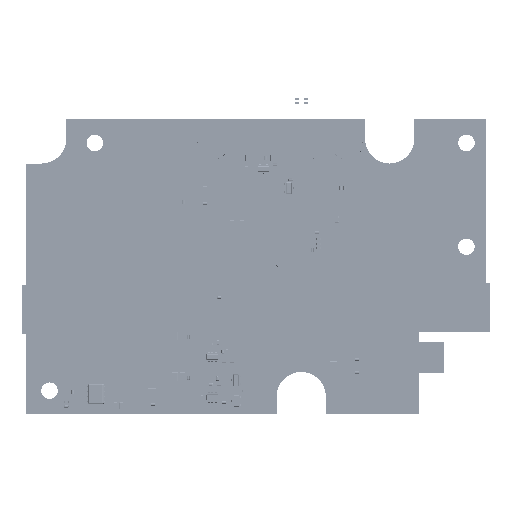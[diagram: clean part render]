
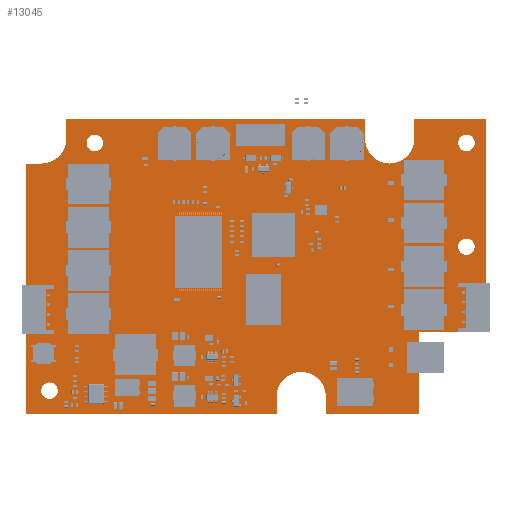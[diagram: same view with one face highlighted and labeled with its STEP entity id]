
A CAD part, top view. The second image highlights one B-rep face of the part: STEP entity #13045.
In plain terms, the highlighted planar face has unit normal (0, 0, 1).
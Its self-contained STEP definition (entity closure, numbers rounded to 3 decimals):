
#13045=ADVANCED_FACE('',(#21939,#21940,#21941,#21942,#21943),#21944,.T.);
#21939=FACE_BOUND('',#30673,.T.);
#21940=FACE_BOUND('',#30674,.T.);
#21941=FACE_BOUND('',#30675,.T.);
#21942=FACE_BOUND('',#30676,.T.);
#21943=FACE_OUTER_BOUND('',#30677,.T.);
#21944=PLANE('',#30678);
#30673=EDGE_LOOP('',(#42317));
#30674=EDGE_LOOP('',(#42318));
#30675=EDGE_LOOP('',(#42319));
#30676=EDGE_LOOP('',(#42320));
#30677=EDGE_LOOP('',(#42321,#42322,#42323,#42324,#42325,#42326,#42327,#42328,#42329,#42330,#42331,#42332,#42333,#42334,#42335,#42336,#42337));
#30678=AXIS2_PLACEMENT_3D('',#42338,#42339,#42340);
#42317=ORIENTED_EDGE('',*,*,#58422,.T.);
#42318=ORIENTED_EDGE('',*,*,#58425,.T.);
#42319=ORIENTED_EDGE('',*,*,#58428,.T.);
#42320=ORIENTED_EDGE('',*,*,#58431,.T.);
#42321=ORIENTED_EDGE('',*,*,#58434,.T.);
#42322=ORIENTED_EDGE('',*,*,#58435,.T.);
#42323=ORIENTED_EDGE('',*,*,#58436,.T.);
#42324=ORIENTED_EDGE('',*,*,#58437,.T.);
#42325=ORIENTED_EDGE('',*,*,#58438,.T.);
#42326=ORIENTED_EDGE('',*,*,#58439,.T.);
#42327=ORIENTED_EDGE('',*,*,#58440,.T.);
#42328=ORIENTED_EDGE('',*,*,#58441,.T.);
#42329=ORIENTED_EDGE('',*,*,#58442,.T.);
#42330=ORIENTED_EDGE('',*,*,#58443,.T.);
#42331=ORIENTED_EDGE('',*,*,#58444,.T.);
#42332=ORIENTED_EDGE('',*,*,#58445,.T.);
#42333=ORIENTED_EDGE('',*,*,#58446,.T.);
#42334=ORIENTED_EDGE('',*,*,#58447,.T.);
#42335=ORIENTED_EDGE('',*,*,#58448,.T.);
#42336=ORIENTED_EDGE('',*,*,#58449,.T.);
#42337=ORIENTED_EDGE('',*,*,#58450,.T.);
#42338=CARTESIAN_POINT('',(60.07,37.993,1.6));
#42339=DIRECTION('',(0.,0.,1.0));
#42340=DIRECTION('',(1.0,0.0,0.));
#58422=EDGE_CURVE('',#65978,#65978,#65979,.T.);
#58425=EDGE_CURVE('',#65983,#65983,#65984,.T.);
#58428=EDGE_CURVE('',#65988,#65988,#65989,.T.);
#58431=EDGE_CURVE('',#65993,#65993,#65994,.T.);
#58434=EDGE_CURVE('',#65998,#65999,#66000,.T.);
#58435=EDGE_CURVE('',#65999,#66001,#66002,.T.);
#58436=EDGE_CURVE('',#66001,#66003,#66004,.T.);
#58437=EDGE_CURVE('',#66003,#66005,#66006,.T.);
#58438=EDGE_CURVE('',#66005,#66007,#66008,.T.);
#58439=EDGE_CURVE('',#66007,#66009,#66010,.T.);
#58440=EDGE_CURVE('',#66009,#66011,#66012,.T.);
#58441=EDGE_CURVE('',#66011,#66013,#66014,.T.);
#58442=EDGE_CURVE('',#66013,#66015,#66016,.T.);
#58443=EDGE_CURVE('',#66015,#66017,#66018,.T.);
#58444=EDGE_CURVE('',#66017,#66019,#66020,.T.);
#58445=EDGE_CURVE('',#66019,#66021,#66022,.T.);
#58446=EDGE_CURVE('',#66021,#66023,#66024,.T.);
#58447=EDGE_CURVE('',#66023,#66025,#66026,.T.);
#58448=EDGE_CURVE('',#66025,#66027,#66028,.T.);
#58449=EDGE_CURVE('',#66027,#66029,#66030,.T.);
#58450=EDGE_CURVE('',#66029,#65998,#66031,.T.);
#65978=VERTEX_POINT('',#76387);
#65979=CIRCLE('',#76388,2.1);
#65983=VERTEX_POINT('',#76392);
#65984=CIRCLE('',#76393,2.1);
#65988=VERTEX_POINT('',#76397);
#65989=CIRCLE('',#76398,2.1);
#65993=VERTEX_POINT('',#76402);
#65994=CIRCLE('',#76403,2.1);
#65998=VERTEX_POINT('',#76407);
#65999=VERTEX_POINT('',#76408);
#66000=LINE('',#76409,#76410);
#66001=VERTEX_POINT('',#76411);
#66002=LINE('',#76412,#76413);
#66003=VERTEX_POINT('',#76414);
#66004=CIRCLE('',#76415,6.25);
#66005=VERTEX_POINT('',#76416);
#66006=LINE('',#76417,#76418);
#66007=VERTEX_POINT('',#76419);
#66008=LINE('',#76420,#76421);
#66009=VERTEX_POINT('',#76422);
#66010=LINE('',#76423,#76424);
#66011=VERTEX_POINT('',#76425);
#66012=LINE('',#76426,#76427);
#66013=VERTEX_POINT('',#76428);
#66014=LINE('',#76429,#76430);
#66015=VERTEX_POINT('',#76431);
#66016=LINE('',#76432,#76433);
#66017=VERTEX_POINT('',#76434);
#66018=LINE('',#76435,#76436);
#66019=VERTEX_POINT('',#76437);
#66020=CIRCLE('',#76438,6.25);
#66021=VERTEX_POINT('',#76439);
#66022=LINE('',#76440,#76441);
#66023=VERTEX_POINT('',#76442);
#66024=LINE('',#76443,#76444);
#66025=VERTEX_POINT('',#76445);
#66026=LINE('',#76446,#76447);
#66027=VERTEX_POINT('',#76448);
#66028=CIRCLE('',#76449,6.25);
#66029=VERTEX_POINT('',#76450);
#66030=LINE('',#76451,#76452);
#66031=LINE('',#76453,#76454);
#76387=CARTESIAN_POINT('',(109.9,69.0,1.6));
#76388=AXIS2_PLACEMENT_3D('',#88684,#88685,#88686);
#76392=CARTESIAN_POINT('',(109.9,42.6,1.6));
#76393=AXIS2_PLACEMENT_3D('',#88690,#88691,#88692);
#76397=CARTESIAN_POINT('',(15.4,69.0,1.6));
#76398=AXIS2_PLACEMENT_3D('',#88696,#88697,#88698);
#76402=CARTESIAN_POINT('',(3.9,6.0,1.6));
#76403=AXIS2_PLACEMENT_3D('',#88702,#88703,#88704);
#76407=CARTESIAN_POINT('',(-0.004,0.016,1.6));
#76408=CARTESIAN_POINT('',(63.746,0.016,1.6));
#76409=CARTESIAN_POINT('',(31.871,0.016,1.6));
#76410=VECTOR('',#88708,1.0);
#76411=CARTESIAN_POINT('',(63.746,4.516,1.6));
#76412=CARTESIAN_POINT('',(63.746,2.266,1.6));
#76413=VECTOR('',#88709,1.0);
#76414=CARTESIAN_POINT('',(76.246,4.516,1.6));
#76415=AXIS2_PLACEMENT_3D('',#88710,#88711,#88712);
#76416=CARTESIAN_POINT('',(76.246,0.016,1.6));
#76417=CARTESIAN_POINT('',(76.246,2.266,1.6));
#76418=VECTOR('',#88713,1.0);
#76419=CARTESIAN_POINT('',(99.996,0.016,1.6));
#76420=CARTESIAN_POINT('',(88.121,0.016,1.6));
#76421=VECTOR('',#88714,1.0);
#76422=CARTESIAN_POINT('',(99.996,21.016,1.6));
#76423=CARTESIAN_POINT('',(99.996,10.516,1.6));
#76424=VECTOR('',#88715,1.0);
#76425=CARTESIAN_POINT('',(116.996,21.016,1.6));
#76426=CARTESIAN_POINT('',(108.496,21.016,1.6));
#76427=VECTOR('',#88716,1.0);
#76428=CARTESIAN_POINT('',(116.996,75.016,1.6));
#76429=CARTESIAN_POINT('',(116.996,48.016,1.6));
#76430=VECTOR('',#88717,1.0);
#76431=CARTESIAN_POINT('',(98.746,75.016,1.6));
#76432=CARTESIAN_POINT('',(107.871,75.016,1.6));
#76433=VECTOR('',#88718,1.0);
#76434=CARTESIAN_POINT('',(98.746,70.016,1.6));
#76435=CARTESIAN_POINT('',(98.746,72.516,1.6));
#76436=VECTOR('',#88719,1.0);
#76437=CARTESIAN_POINT('',(86.246,70.016,1.6));
#76438=AXIS2_PLACEMENT_3D('',#88720,#88721,#88722);
#76439=CARTESIAN_POINT('',(86.246,75.016,1.6));
#76440=CARTESIAN_POINT('',(86.246,72.516,1.6));
#76441=VECTOR('',#88723,1.0);
#76442=CARTESIAN_POINT('',(10.246,75.016,1.6));
#76443=CARTESIAN_POINT('',(48.246,75.016,1.6));
#76444=VECTOR('',#88724,1.0);
#76445=CARTESIAN_POINT('',(10.246,70.016,1.6));
#76446=CARTESIAN_POINT('',(10.246,72.516,1.6));
#76447=VECTOR('',#88725,1.0);
#76448=CARTESIAN_POINT('',(3.996,63.766,1.6));
#76449=AXIS2_PLACEMENT_3D('',#88726,#88727,#88728);
#76450=CARTESIAN_POINT('',(-0.004,63.766,1.6));
#76451=CARTESIAN_POINT('',(1.996,63.766,1.6));
#76452=VECTOR('',#88729,1.0);
#76453=CARTESIAN_POINT('',(-0.004,31.891,1.6));
#76454=VECTOR('',#88730,1.0);
#88684=CARTESIAN_POINT('',(112.0,69.0,1.6));
#88685=DIRECTION('',(0.,0.,-1.0));
#88686=DIRECTION('',(-1.0,0.,0.));
#88690=CARTESIAN_POINT('',(112.0,42.6,1.6));
#88691=DIRECTION('',(0.,0.,-1.0));
#88692=DIRECTION('',(-1.0,0.,0.));
#88696=CARTESIAN_POINT('',(17.5,69.0,1.6));
#88697=DIRECTION('',(0.,0.,-1.0));
#88698=DIRECTION('',(-1.0,0.,0.));
#88702=CARTESIAN_POINT('',(6.0,6.0,1.6));
#88703=DIRECTION('',(0.,0.,-1.0));
#88704=DIRECTION('',(-1.0,0.,0.));
#88708=DIRECTION('',(1.0,0.0,0.0));
#88709=DIRECTION('',(0.0,1.0,0.0));
#88710=CARTESIAN_POINT('',(69.996,4.516,1.6));
#88711=DIRECTION('',(0.0,0.0,-1.0));
#88712=DIRECTION('',(-1.0,0.0,0.0));
#88713=DIRECTION('',(0.,-1.0,0.0));
#88714=DIRECTION('',(1.0,0.,0.0));
#88715=DIRECTION('',(0.0,1.0,0.0));
#88716=DIRECTION('',(1.0,0.0,0.0));
#88717=DIRECTION('',(0.0,1.0,0.0));
#88718=DIRECTION('',(-1.0,0.0,0.0));
#88719=DIRECTION('',(0.0,-1.0,0.0));
#88720=CARTESIAN_POINT('',(92.496,70.016,1.6));
#88721=DIRECTION('',(0.0,0.0,-1.0));
#88722=DIRECTION('',(1.,0.,0.0));
#88723=DIRECTION('',(0.,1.,0.0));
#88724=DIRECTION('',(-1.0,0.0,0.0));
#88725=DIRECTION('',(0.,-1.0,0.0));
#88726=CARTESIAN_POINT('',(3.996,70.016,1.6));
#88727=DIRECTION('',(0.0,0.0,-1.0));
#88728=DIRECTION('',(1.,0.,0.0));
#88729=DIRECTION('',(-1.0,0.,0.0));
#88730=DIRECTION('',(0.,-1.0,0.0));
